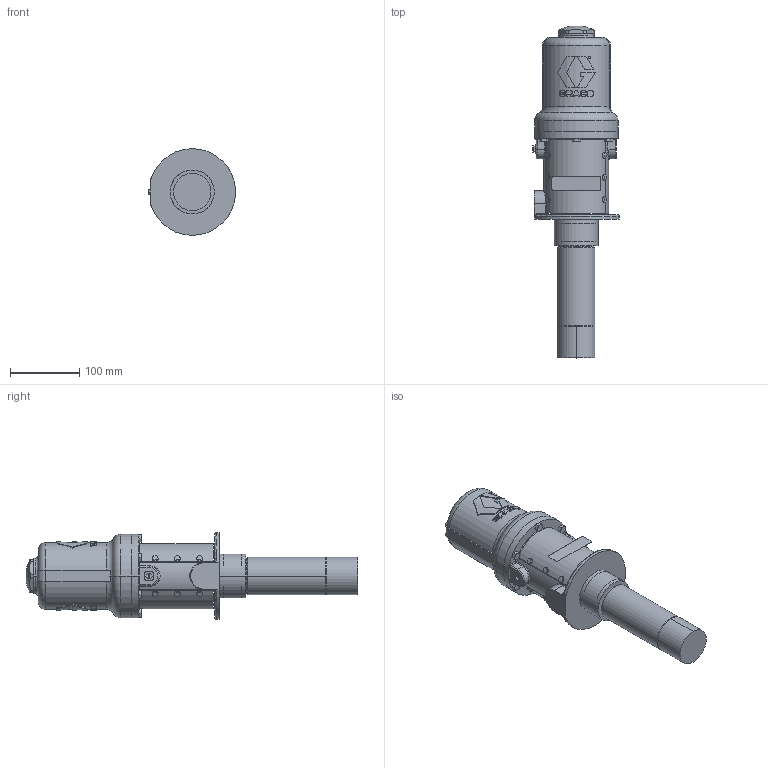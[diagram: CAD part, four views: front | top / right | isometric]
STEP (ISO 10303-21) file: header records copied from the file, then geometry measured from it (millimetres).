
FILE_DESCRIPTION((''),'2;1');
FILE_NAME('248097-EN-V_PRT','2024-02-21T09:40:31',('qtmwp1'),(''),'CREO PARAMETRIC BY PTC INC, 2021072','CREO PARAMETRIC BY PTC INC, 2021072','');
FILE_SCHEMA(('CONFIG_CONTROL_DESIGN'));
Length unit declared in the file: inch
Products named in the file (1): 248097-EN-V_PRT
Bounding box: 125.35 x 479.27 x 124.81 mm (x, y, z)
Surface area: 174125.5 mm2 (no closed solid volume)
Topology: 0 solids, 63 shells, 341 faces, 1097 edges, 805 vertices
Faces by surface type: plane 164, cylinder 100, cone 40, torus 24, bspline 7, extrusion 6
Entity records: 13689 total; most frequent: CARTESIAN_POINT 4703, DIRECTION 1789, ORIENTED_EDGE 1644, EDGE_CURVE 1097, VERTEX_POINT 805, AXIS2_PLACEMENT_3D 672, VECTOR 445, LINE 439
